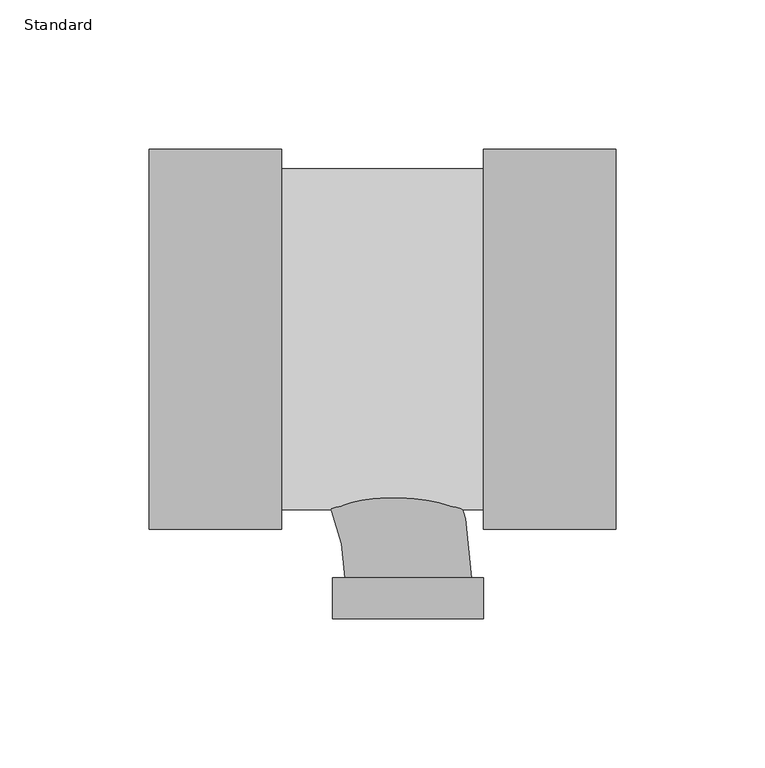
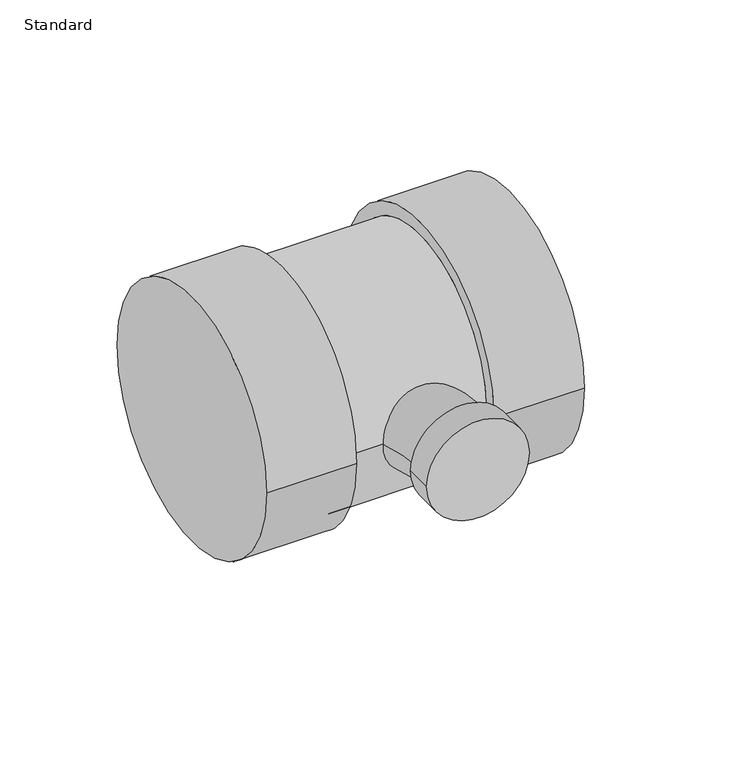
"""IFC4 building model written with IfcOpenShell, lengths in millimetres: pipe fitting geometry, EG-RCAN Té sanitaire de réduction - PVC - Nom. 40 - DWV : Standard."""

from ifc_helpers import new_model, si_unit, point, frame, origin, place, context, project, spatial, circle_curve, ellipse_curve, trimmed, source, transform, mapped, element, save
from ifc_brep_helpers import plane_surface, cylinder_surface, revolved_surface, advanced_brep


def standard_9bcf6a7d(model_context):
    return source(origin(), model_context, "Body", "AdvancedBrep", [
        advanced_brep(
        [(25.2681339, -63.754, 0.0), (25.2681339, 63.754, 0.0), (25.2681339, -57.15, 0.0), (25.2681339, 57.15, 0.0), (69.7181339, -63.754, 0.0), (69.7181339, 63.754, 0.0), (-42.4599062, 57.15, 0.0), (-42.4599062, -57.15, 0.0), (-86.9099063, -63.754, 0.0), (-86.9099062, 63.754, 0.0), (-42.4599063, -63.754, 0.0), (-42.4599062, 63.754, 0.0)],
        [
            (0, 1, circle_curve(frame((25.2681339, 0.0, 0.0), z_axis=(-1.0, 0.0, 0.0), x_axis=(0.0, 1.0, 0.0)), 63.754)),
            (1, 0, circle_curve(frame((25.2681339, 0.0, 0.0), z_axis=(-1.0, 0.0, 0.0), x_axis=(0.0, 1.0, 0.0)), 63.754)),
            (2, 3, circle_curve(frame((25.2681339, 0.0, 0.0), z_axis=(1.0, 0.0, 0.0), x_axis=(0.0, 0.0, -1.0)), 57.15)),
            (3, 2, circle_curve(frame((25.2681339, 0.0, 0.0), z_axis=(1.0, 0.0, 0.0), x_axis=(0.0, 0.0, 1.0)), 57.15)),
            (4, 5, circle_curve(frame((69.7181339, 0.0, 0.0), z_axis=(1.0, 0.0, 0.0), x_axis=(0.0, 1.0, 0.0)), 63.754)),
            (5, 4, circle_curve(frame((69.7181339, 0.0, 0.0), z_axis=(1.0, 0.0, 0.0), x_axis=(0.0, 1.0, 0.0)), 63.754)),
            (0, 4),
            (5, 1),
            (6, 3),
            (2, 7),
            (7, 6, circle_curve(frame((-42.4599063, 0.0, 0.0), z_axis=(1.0, 0.0, 0.0), x_axis=(0.0, 0.0, -1.0)), 57.15)),
            (6, 7, circle_curve(frame((-42.4599062, 0.0, 0.0), z_axis=(1.0, 0.0, 0.0), x_axis=(0.0, 0.0, 1.0)), 57.15)),
            (8, 9, circle_curve(frame((-86.9099062, 0.0, 0.0), z_axis=(-1.0, 0.0, 0.0), x_axis=(0.0, 1.0, 0.0)), 63.754)),
            (9, 8, circle_curve(frame((-86.9099062, 0.0, 0.0), z_axis=(-1.0, 0.0, 0.0), x_axis=(0.0, 1.0, 0.0)), 63.754)),
            (10, 11, circle_curve(frame((-42.4599062, 0.0, 0.0), z_axis=(1.0, 0.0, 0.0), x_axis=(0.0, 1.0, 0.0)), 63.754)),
            (11, 10, circle_curve(frame((-42.4599062, 0.0, 0.0), z_axis=(1.0, 0.0, 0.0), x_axis=(0.0, 1.0, 0.0)), 63.754)),
            (8, 10),
            (11, 9),
        ],
        [
            plane_surface(frame((25.2681339, 0.0, 0.0), z_axis=(-1.0, 0.0, 0.0), x_axis=(0.0, 0.0, 1.0))),
            plane_surface(frame((69.7181339, 0.0, 0.0), z_axis=(1.0, 0.0, 0.0), x_axis=(0.0, 0.0, 1.0))),
            cylinder_surface(frame((25.2681339, 0.0, 0.0), z_axis=(-1.0, 0.0, 0.0), x_axis=(0.0, 1.0, 0.0)), 63.754),
            cylinder_surface(frame((-42.4599062, 0.0, 0.0), z_axis=(1.0, 0.0, 0.0), x_axis=(0.0, 0.0, -1.0)), 57.15),
            cylinder_surface(frame((-42.4599062, 0.0, 0.0), z_axis=(1.0, 0.0, 0.0), x_axis=(0.0, 0.0, 1.0)), 57.15),
            plane_surface(frame((-86.9099062, 0.0, 0.0), z_axis=(-1.0, 0.0, 0.0), x_axis=(0.0, 0.0, 1.0))),
            plane_surface(frame((-42.4599062, 0.0, 0.0), z_axis=(1.0, 0.0, 0.0), x_axis=(0.0, 0.0, 1.0))),
            cylinder_surface(frame((-86.9099062, 0.0, 0.0), z_axis=(-1.0, 0.0, 0.0), x_axis=(0.0, 1.0, 0.0)), 63.754),
        ],
        [
            (0, [[1, 2], [3, 4]]),
            (1, [[5, 6]]),
            (2, [[-1, 7, -6, 8]]),
            (2, [[-2, -8, -5, -7]]),
            (3, [[9, -3, 10, 11]]),
            (4, [[-9, 12, -10, -4]]),
            (5, [[13, 14]]),
            (6, [[15, 16], [-11, -12]]),
            (7, [[-13, 17, -16, 18]]),
            (7, [[-14, -18, -15, -17]]),
        ],
    ),
        advanced_brep(
        [(-25.2660849, -80.0279797, 0.0), (25.2681339, -80.0273328, 0.0), (21.205087, -80.0273848, 0.0), (-21.203038, -80.0279277, 0.0), (-25.265909, -93.7682922, 0.0), (25.2683098, -93.7676453, 0.0), (-80.0276562, -21.2040625, 0.0), (-80.0276562, 21.2040625, 0.0)],
        [
            (0, 1, circle_curve(frame((0.0010245, -80.0276562, 0.0), z_axis=(-1.2801963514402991e-05, 0.9999999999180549, 0.0), x_axis=(0.9999999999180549, 1.2801963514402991e-05, 0.0)), 25.2671094)),
            (1, 0, circle_curve(frame((0.0010245, -80.0276562, 0.0), z_axis=(-1.2801963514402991e-05, 0.9999999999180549, 0.0), x_axis=(0.9999999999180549, 1.2801963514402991e-05, 0.0)), 25.2671094)),
            (2, 3, circle_curve(frame((0.0010245, -80.0276562, 0.0), z_axis=(1.2801963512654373e-05, -0.9999999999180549, 0.0), x_axis=(0.9999999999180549, 1.2801963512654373e-05, 0.0)), 21.2040625)),
            (3, 2, circle_curve(frame((0.0010245, -80.0276562, 0.0), z_axis=(1.2801963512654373e-05, -0.9999999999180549, 0.0), x_axis=(0.9999999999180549, 1.2801963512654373e-05, 0.0)), 21.2040625)),
            (4, 5, circle_curve(frame((0.0012004, -93.7679687, 0.0), z_axis=(1.2801963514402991e-05, -0.9999999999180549, 0.0), x_axis=(0.9999999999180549, 1.2801963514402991e-05, 0.0)), 25.2671094)),
            (5, 4, circle_curve(frame((0.0012004, -93.7679687, 0.0), z_axis=(1.2801963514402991e-05, -0.9999999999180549, 0.0), x_axis=(0.9999999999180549, 1.2801963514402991e-05, 0.0)), 25.2671094)),
            (0, 4),
            (5, 1),
            (6, 7, circle_curve(frame((-80.0276562, 0.0, 0.0), z_axis=(-1.0, 0.0, 0.0), x_axis=(0.0, 1.0, 0.0)), 21.2040625)),
            (7, 6, circle_curve(frame((-80.0276562, 0.0, 0.0), z_axis=(-1.0, 0.0, 0.0), x_axis=(0.0, 1.0, 0.0)), 21.2040625)),
            (6, 3, circle_curve(frame((-80.0276562, -80.0286808, 0.0), z_axis=(0.0, 0.0, -1.0), x_axis=(0.0, 1.0, 0.0)), 58.8246183)),
            (2, 7, circle_curve(frame((-80.0276562, -80.0286808, 0.0), z_axis=(0.0, 0.0, 1.0), x_axis=(0.0, 1.0, 0.0)), 101.2327433)),
        ],
        [
            plane_surface(frame((0.0010245, -80.0276562, 0.0), z_axis=(-1.2801963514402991e-05, 0.9999999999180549, 0.0), x_axis=(0.0, 0.0, 1.0))),
            plane_surface(frame((0.0012004, -93.7679687, 0.0), z_axis=(1.2801963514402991e-05, -0.9999999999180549, 0.0), x_axis=(0.0, 0.0, 1.0))),
            cylinder_surface(frame((0.0010245, -80.0276562, 0.0), z_axis=(-1.2801963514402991e-05, 0.9999999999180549, 0.0), x_axis=(0.9999999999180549, 1.2801963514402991e-05, 0.0)), 25.2671094),
            plane_surface(frame((-80.0276562, 0.0, 0.0), z_axis=(-1.0, 0.0, 0.0), x_axis=(0.0, 0.0, 1.0))),
            revolved_surface(trimmed(ellipse_curve(frame((-80.0276562, 0.0, 0.0), z_axis=(-1.0, 0.0, 0.0), x_axis=(0.0, 1.0, 0.0)), 21.2040625, 21.2040625), [point((-80.0276562, -21.2040625, 0.0))], [point((-80.0276562, 21.2040625, 0.0))], True, "CARTESIAN"), (-80.0276562, -80.0286808, 0.0), (0.0, 0.0, -1.0)),
            revolved_surface(trimmed(ellipse_curve(frame((-80.0276562, 0.0, 0.0), z_axis=(-1.0, 0.0, 0.0), x_axis=(0.0, 1.0, 0.0)), 21.2040625, 21.2040625), [point((-80.0276562, 21.2040625, 0.0))], [point((-80.0276562, -21.2040625, 0.0))], True, "CARTESIAN"), (-80.0276562, -80.0286808, 0.0), (0.0, 0.0, -1.0)),
        ],
        [
            (0, [[1, 2], [3, 4]]),
            (1, [[5, 6]]),
            (2, [[-1, 7, -6, 8]]),
            (2, [[-2, -8, -5, -7]]),
            (3, [[9, 10]]),
            (4, [[-9, 11, -3, 12]]),
            (5, [[-10, -12, -4, -11]]),
        ],
    ),
    ])


if __name__ == "__main__":
    model = new_model("IFC4")
    model_context = context("Model", 3, world=origin())
    ifc_project = project(units=[si_unit("LENGTHUNIT", "METRE", prefix="MILLI")], contexts=[model_context])
    site = spatial("IfcSite", under=ifc_project)
    building = spatial("IfcBuilding", under=site)
    placement = place(None, origin())
    standard_shape = standard_9bcf6a7d(model_context)
    element("IfcPipeFitting", 1, ObjectType="EG-RCAN Té sanitaire de réduction - PVC - Nom. 40 - DWV : Standard", at=placement, inside=building, context=model_context, shape_type="MappedRepresentation", body=[
        mapped(standard_shape, transform((0.0, 0.0, 0.0), x_axis=(1.0, 0.0, 0.0), y_axis=(0.0, 1.0, 0.0), z_axis=(0.0, 0.0, 1.0))),
    ])
    save(model, "model.ifc")
